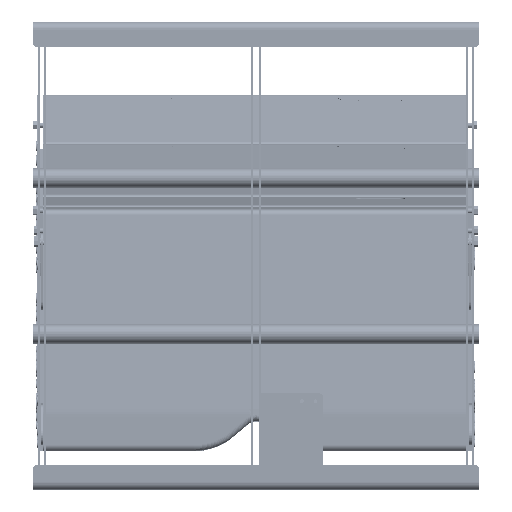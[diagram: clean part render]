
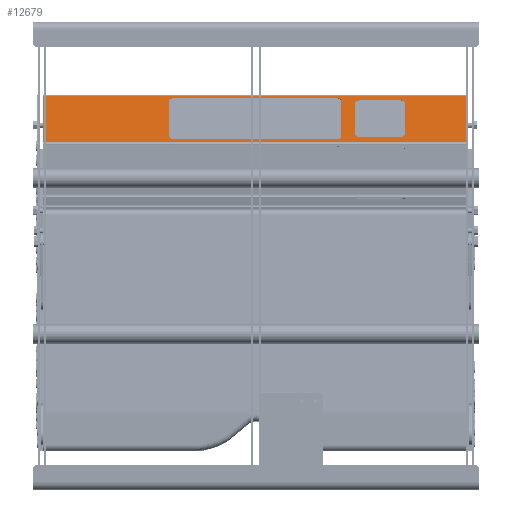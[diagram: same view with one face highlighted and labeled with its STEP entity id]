
A CAD part, top view. The second image highlights one B-rep face of the part: STEP entity #12679.
In plain terms, the highlighted planar face has unit normal (0, 0.887, 0.462) as drawn and (-1, 0, 0) by its records, which use the part's own axes.
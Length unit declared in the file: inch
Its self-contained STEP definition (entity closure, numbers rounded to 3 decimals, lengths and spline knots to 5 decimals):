
#923=CIRCLE('',#13783,0.375);
#924=CIRCLE('',#13784,0.375);
#925=CIRCLE('',#13785,0.375);
#926=CIRCLE('',#13786,0.375);
#927=CIRCLE('',#13787,0.33);
#928=CIRCLE('',#13788,0.33);
#929=CIRCLE('',#13789,0.33);
#930=CIRCLE('',#13790,0.33);
#1463=FACE_BOUND('',#2700,.T.);
#1464=FACE_BOUND('',#2701,.T.);
#1860=FACE_OUTER_BOUND('',#2699,.T.);
#2699=EDGE_LOOP('',(#10287,#10288,#10289,#10290));
#2700=EDGE_LOOP('',(#10291,#10292,#10293,#10294,#10295,#10296,#10297,#10298));
#2701=EDGE_LOOP('',(#10299,#10300,#10301,#10302,#10303,#10304,#10305,#10306));
#3929=LINE('',#20612,#5047);
#3932=LINE('',#20622,#5050);
#3933=LINE('',#20623,#5051);
#3934=LINE('',#20624,#5052);
#3935=LINE('',#20629,#5053);
#3936=LINE('',#20633,#5054);
#3937=LINE('',#20637,#5055);
#3938=LINE('',#20640,#5056);
#3939=LINE('',#20645,#5057);
#3940=LINE('',#20649,#5058);
#3941=LINE('',#20653,#5059);
#3942=LINE('',#20656,#5060);
#5047=VECTOR('',#16528,27.238);
#5050=VECTOR('',#16539,27.238);
#5051=VECTOR('',#16540,6.45343);
#5052=VECTOR('',#16541,6.45343);
#5053=VECTOR('',#16544,10.25);
#5054=VECTOR('',#16547,5.05);
#5055=VECTOR('',#16550,10.25);
#5056=VECTOR('',#16553,5.05);
#5057=VECTOR('',#16556,2.5);
#5058=VECTOR('',#16559,4.5);
#5059=VECTOR('',#16562,2.5);
#5060=VECTOR('',#16565,4.5);
#6139=VERTEX_POINT('',#20610);
#6140=VERTEX_POINT('',#20611);
#6142=VERTEX_POINT('',#20620);
#6143=VERTEX_POINT('',#20621);
#6144=VERTEX_POINT('',#20625);
#6145=VERTEX_POINT('',#20626);
#6146=VERTEX_POINT('',#20628);
#6147=VERTEX_POINT('',#20630);
#6148=VERTEX_POINT('',#20632);
#6149=VERTEX_POINT('',#20634);
#6150=VERTEX_POINT('',#20636);
#6151=VERTEX_POINT('',#20638);
#6152=VERTEX_POINT('',#20641);
#6153=VERTEX_POINT('',#20642);
#6154=VERTEX_POINT('',#20644);
#6155=VERTEX_POINT('',#20646);
#6156=VERTEX_POINT('',#20648);
#6157=VERTEX_POINT('',#20650);
#6158=VERTEX_POINT('',#20652);
#6159=VERTEX_POINT('',#20654);
#7618=EDGE_CURVE('',#6139,#6140,#3929,.T.);
#7623=EDGE_CURVE('',#6142,#6143,#3932,.T.);
#7624=EDGE_CURVE('',#6142,#6139,#3933,.T.);
#7625=EDGE_CURVE('',#6143,#6140,#3934,.T.);
#7626=EDGE_CURVE('',#6144,#6145,#923,.T.);
#7627=EDGE_CURVE('',#6146,#6144,#3935,.T.);
#7628=EDGE_CURVE('',#6147,#6146,#924,.T.);
#7629=EDGE_CURVE('',#6148,#6147,#3936,.T.);
#7630=EDGE_CURVE('',#6149,#6148,#925,.T.);
#7631=EDGE_CURVE('',#6150,#6149,#3937,.T.);
#7632=EDGE_CURVE('',#6151,#6150,#926,.T.);
#7633=EDGE_CURVE('',#6145,#6151,#3938,.T.);
#7634=EDGE_CURVE('',#6152,#6153,#927,.T.);
#7635=EDGE_CURVE('',#6154,#6152,#3939,.T.);
#7636=EDGE_CURVE('',#6155,#6154,#928,.T.);
#7637=EDGE_CURVE('',#6156,#6155,#3940,.T.);
#7638=EDGE_CURVE('',#6157,#6156,#929,.T.);
#7639=EDGE_CURVE('',#6158,#6157,#3941,.T.);
#7640=EDGE_CURVE('',#6159,#6158,#930,.T.);
#7641=EDGE_CURVE('',#6153,#6159,#3942,.T.);
#10287=ORIENTED_EDGE('',*,*,#7623,.F.);
#10288=ORIENTED_EDGE('',*,*,#7624,.T.);
#10289=ORIENTED_EDGE('',*,*,#7618,.T.);
#10290=ORIENTED_EDGE('',*,*,#7625,.F.);
#10291=ORIENTED_EDGE('',*,*,#7626,.F.);
#10292=ORIENTED_EDGE('',*,*,#7627,.F.);
#10293=ORIENTED_EDGE('',*,*,#7628,.F.);
#10294=ORIENTED_EDGE('',*,*,#7629,.F.);
#10295=ORIENTED_EDGE('',*,*,#7630,.F.);
#10296=ORIENTED_EDGE('',*,*,#7631,.F.);
#10297=ORIENTED_EDGE('',*,*,#7632,.F.);
#10298=ORIENTED_EDGE('',*,*,#7633,.F.);
#10299=ORIENTED_EDGE('',*,*,#7634,.F.);
#10300=ORIENTED_EDGE('',*,*,#7635,.F.);
#10301=ORIENTED_EDGE('',*,*,#7636,.F.);
#10302=ORIENTED_EDGE('',*,*,#7637,.F.);
#10303=ORIENTED_EDGE('',*,*,#7638,.F.);
#10304=ORIENTED_EDGE('',*,*,#7639,.F.);
#10305=ORIENTED_EDGE('',*,*,#7640,.F.);
#10306=ORIENTED_EDGE('',*,*,#7641,.F.);
#12214=PLANE('',#13782);
#12679=ADVANCED_FACE('',(#1860,#1463,#1464),#12214,.T.);
#13782=AXIS2_PLACEMENT_3D('',#20619,#16537,#16538);
#13783=AXIS2_PLACEMENT_3D('',#20627,#16542,#16543);
#13784=AXIS2_PLACEMENT_3D('',#20631,#16545,#16546);
#13785=AXIS2_PLACEMENT_3D('',#20635,#16548,#16549);
#13786=AXIS2_PLACEMENT_3D('',#20639,#16551,#16552);
#13787=AXIS2_PLACEMENT_3D('',#20643,#16554,#16555);
#13788=AXIS2_PLACEMENT_3D('',#20647,#16557,#16558);
#13789=AXIS2_PLACEMENT_3D('',#20651,#16560,#16561);
#13790=AXIS2_PLACEMENT_3D('',#20655,#16563,#16564);
#16528=DIRECTION('',(0.,0.,1.));
#16537=DIRECTION('center_axis',(-1.,0.,0.));
#16538=DIRECTION('ref_axis',(0.,0.,1.));
#16539=DIRECTION('',(0.,0.,1.));
#16540=DIRECTION('',(0.,-1.,0.));
#16541=DIRECTION('',(0.,-1.,0.));
#16542=DIRECTION('center_axis',(-1.,0.,0.));
#16543=DIRECTION('ref_axis',(0.,-1.,0.));
#16544=DIRECTION('',(0.,0.,-1.));
#16545=DIRECTION('center_axis',(-1.,0.,0.));
#16546=DIRECTION('ref_axis',(0.,-1.,0.));
#16547=DIRECTION('',(0.,1.,0.));
#16548=DIRECTION('center_axis',(-1.,0.,0.));
#16549=DIRECTION('ref_axis',(0.,-1.,0.));
#16550=DIRECTION('',(0.,0.,1.));
#16551=DIRECTION('center_axis',(-1.,0.,0.));
#16552=DIRECTION('ref_axis',(0.,-1.,0.));
#16553=DIRECTION('',(0.,-1.,0.));
#16554=DIRECTION('center_axis',(-1.,0.,0.));
#16555=DIRECTION('ref_axis',(0.,-1.,0.));
#16556=DIRECTION('',(0.,0.,-1.));
#16557=DIRECTION('center_axis',(-1.,0.,0.));
#16558=DIRECTION('ref_axis',(0.,-1.,0.));
#16559=DIRECTION('',(0.,1.,0.));
#16560=DIRECTION('center_axis',(-1.,0.,0.));
#16561=DIRECTION('ref_axis',(0.,-1.,0.));
#16562=DIRECTION('',(0.,0.,1.));
#16563=DIRECTION('center_axis',(-1.,0.,0.));
#16564=DIRECTION('ref_axis',(0.,-1.,0.));
#16565=DIRECTION('',(0.,-1.,0.));
#20610=CARTESIAN_POINT('',(-13.0906,-3.22672,-27.607));
#20611=CARTESIAN_POINT('',(-13.0906,-3.22672,-0.369));
#20612=CARTESIAN_POINT('',(-13.0906,-3.22672,-27.607));
#20619=CARTESIAN_POINT('Origin',(-13.0906,-3.22672,-27.976));
#20620=CARTESIAN_POINT('',(-13.0906,3.22672,-27.607));
#20621=CARTESIAN_POINT('',(-13.0906,3.22672,-0.369));
#20622=CARTESIAN_POINT('',(-13.0906,3.22672,-27.607));
#20623=CARTESIAN_POINT('',(-13.0906,3.22672,-27.607));
#20624=CARTESIAN_POINT('',(-13.0906,3.22672,-0.369));
#20625=CARTESIAN_POINT('',(-13.0906,2.9,-19.113));
#20626=CARTESIAN_POINT('',(-13.0906,2.525,-19.488));
#20627=CARTESIAN_POINT('Origin',(-13.0906,2.525,-19.113));
#20628=CARTESIAN_POINT('',(-13.0906,2.9,-8.863));
#20629=CARTESIAN_POINT('',(-13.0906,2.9,-8.863));
#20630=CARTESIAN_POINT('',(-13.0906,2.525,-8.488));
#20631=CARTESIAN_POINT('Origin',(-13.0906,2.525,-8.863));
#20632=CARTESIAN_POINT('',(-13.0906,-2.525,-8.488));
#20633=CARTESIAN_POINT('',(-13.0906,-2.525,-8.488));
#20634=CARTESIAN_POINT('',(-13.0906,-2.9,-8.863));
#20635=CARTESIAN_POINT('Origin',(-13.0906,-2.525,-8.863));
#20636=CARTESIAN_POINT('',(-13.0906,-2.9,-19.113));
#20637=CARTESIAN_POINT('',(-13.0906,-2.9,-19.113));
#20638=CARTESIAN_POINT('',(-13.0906,-2.525,-19.488));
#20639=CARTESIAN_POINT('Origin',(-13.0906,-2.525,-19.113));
#20640=CARTESIAN_POINT('',(-13.0906,2.525,-19.488));
#20641=CARTESIAN_POINT('',(-13.0906,2.58,-23.238));
#20642=CARTESIAN_POINT('',(-13.0906,2.25,-23.568));
#20643=CARTESIAN_POINT('Origin',(-13.0906,2.25,-23.238));
#20644=CARTESIAN_POINT('',(-13.0906,2.58,-20.738));
#20645=CARTESIAN_POINT('',(-13.0906,2.58,-20.738));
#20646=CARTESIAN_POINT('',(-13.0906,2.25,-20.408));
#20647=CARTESIAN_POINT('Origin',(-13.0906,2.25,-20.738));
#20648=CARTESIAN_POINT('',(-13.0906,-2.25,-20.408));
#20649=CARTESIAN_POINT('',(-13.0906,-2.25,-20.408));
#20650=CARTESIAN_POINT('',(-13.0906,-2.58,-20.738));
#20651=CARTESIAN_POINT('Origin',(-13.0906,-2.25,-20.738));
#20652=CARTESIAN_POINT('',(-13.0906,-2.58,-23.238));
#20653=CARTESIAN_POINT('',(-13.0906,-2.58,-23.238));
#20654=CARTESIAN_POINT('',(-13.0906,-2.25,-23.568));
#20655=CARTESIAN_POINT('Origin',(-13.0906,-2.25,-23.238));
#20656=CARTESIAN_POINT('',(-13.0906,2.25,-23.568));
